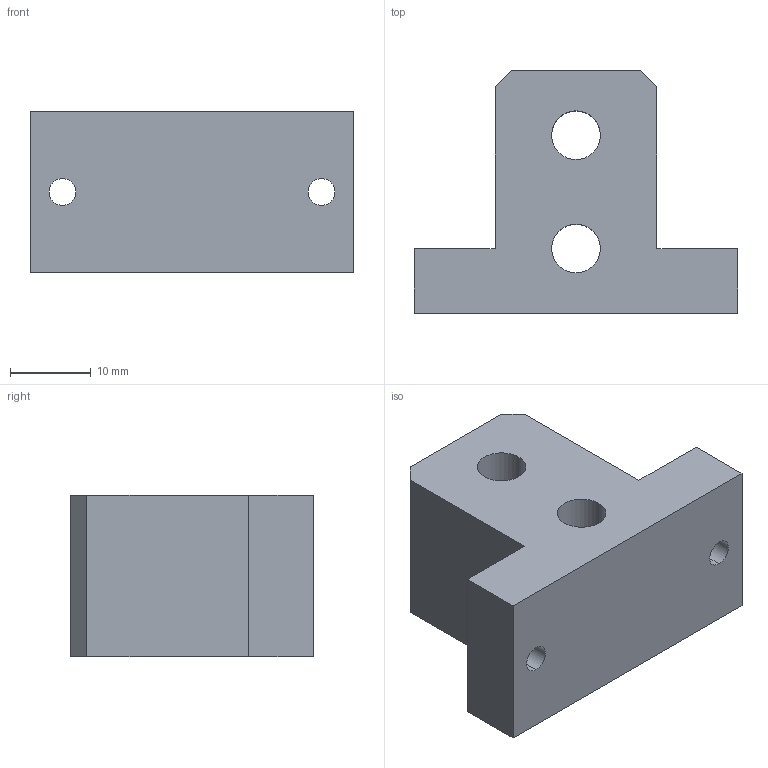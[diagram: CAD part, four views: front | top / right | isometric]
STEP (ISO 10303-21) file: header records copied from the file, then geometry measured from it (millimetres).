
FILE_DESCRIPTION (( 'STEP AP214' ), '1' );
FILE_NAME ('2026_6_1_２穴チューブクランプ.STEP', '2026-06-08T08:54:45', ( '' ), ( '' ), 'SwSTEP 2.0', 'SolidWorks 2025', '' );
FILE_SCHEMA (( 'AUTOMOTIVE_DESIGN' ));
Length unit declared in the file: millimetre
Products named in the file (1): 2026_6_1_２穴チューブクランプ
Bounding box: 40 x 30 x 20 mm (x, y, z)
Volume: 13852.2 mm3; surface area: 5037.7 mm2
Topology: 1 solids, 1 shells, 20 faces, 54 edges, 36 vertices
Faces by surface type: plane 12, cylinder 8
Entity records: 761 total; most frequent: DIRECTION 112, CARTESIAN_POINT 111, ORIENTED_EDGE 108, EDGE_CURVE 54, LINE 38, VECTOR 38, AXIS2_PLACEMENT_3D 37, VERTEX_POINT 36
